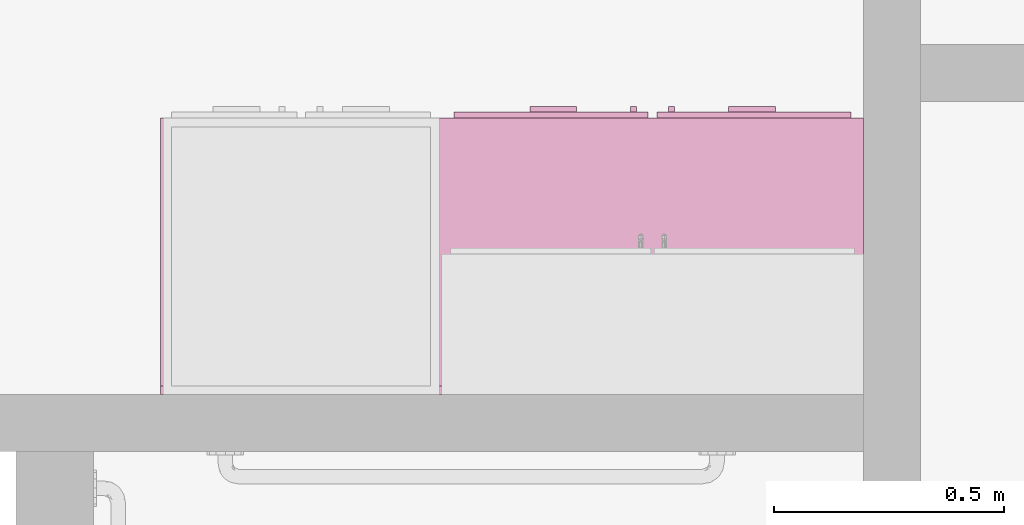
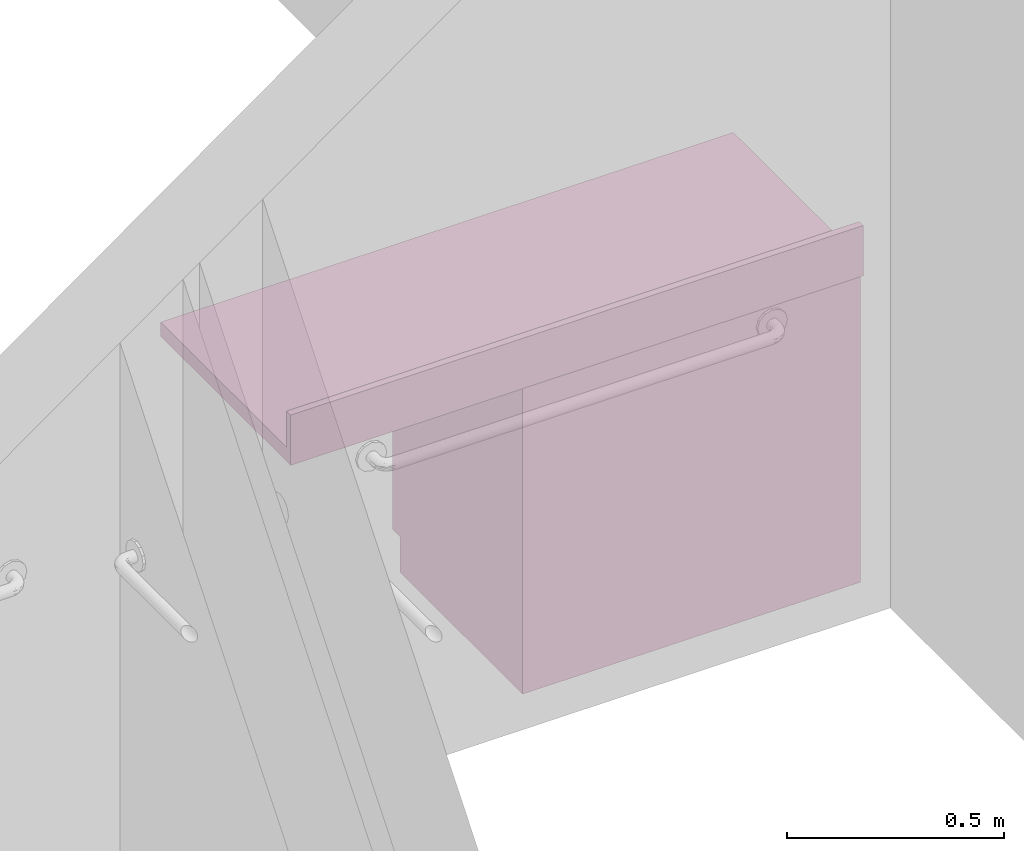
# One storey, part 72 of 82: 2 furnishings.
"""IFC2X3 building model written with IfcOpenShell, lengths in metres."""

from ifc_helpers import new_model, entity, si_unit, converted_unit, frame, origin, origin_2d_with_axis, place, context, project, spatial, rectangle, extrude, face_set, surface_model, source, transform, mapped, type_object, type_shapes, element, save


model = new_model("IFC2X3")

# Units and contexts
model_context = context("Model", 3, precision=1e-09, world=origin())
plan_context = context("Plan", 3, precision=1e-09, world=origin())
ifc_project = project(units=[si_unit("LENGTHUNIT", "METRE"), si_unit("AREAUNIT", "SQUARE_METRE"), si_unit("VOLUMEUNIT", "CUBIC_METRE"), converted_unit("PLANEANGLEUNIT", "DEGREE", entity("IfcRatioMeasure", 0.01745329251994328), si_unit("PLANEANGLEUNIT", "RADIAN"), dimensions=[0, 0, 0, 0, 0, 0, 0]), si_unit("TIMEUNIT", "SECOND")], contexts=[model_context, plan_context])

# Site, building, storey, space
site_placement = place(None, origin())
site = spatial("IfcSite", under=ifc_project, at=site_placement, Name="Default", CompositionType="ELEMENT")
building_placement = place(site_placement, origin())
building = spatial("IfcBuilding", under=site, at=building_placement, CompositionType="ELEMENT")
storey_placement = place(building_placement, origin())
storey = spatial("IfcBuildingStorey", under=building, at=storey_placement, Name="First Floor", CompositionType="ELEMENT", Elevation=-3.531500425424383e-13)
space_placement = place(storey_placement, origin())
space = spatial("IfcSpace", under=storey, at=space_placement, Name="1E11", CompositionType="ELEMENT", InteriorOrExteriorSpace="INTERNAL")

# Furnishings
furniture_type_1 = type_object("IfcFurnitureType", Name="900mm", AssemblyPlace="NOTDEFINED")
shared_shape_1 = source(origin(), model_context, "Body", "SurfaceModel", [
    surface_model("IfcFaceBasedSurfaceModel", [(0.8809499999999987, 0.04445000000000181, 0.86000000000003), (0.8809499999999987, 0.04445000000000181, 0.09999999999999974), (0.01905000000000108, 0.04445000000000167, 0.09999999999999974), (0.01905000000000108, 0.04445000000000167, 0.86000000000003), (0.8999999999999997, 0.02540000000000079, 0.8600000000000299), (0.0, 0.02540000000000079, 0.8600000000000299), (0.8999999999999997, 0.02540000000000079, 0.09999999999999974), (0.0, 0.02540000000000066, 0.0999999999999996), (0.01905000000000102, 0.6063499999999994, 0.86000000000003), (0.01905000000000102, 0.6063499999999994, 0.09999999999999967), (0.01905000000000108, 0.06040000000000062, 0.09999999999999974), (0.0, 0.6254000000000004, 0.8600000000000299), (0.0, 0.6254000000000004, 0.0), (0.0, 0.06040000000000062, 0.0), (0.0, 0.06040000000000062, 0.09999999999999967), (0.8809499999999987, 0.6063499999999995, 0.86000000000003), (0.8809499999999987, 0.6063499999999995, 0.09999999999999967), (0.8999999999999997, 0.6254000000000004, 0.8600000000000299), (0.8999999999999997, 0.6254000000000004, 0.0), (0.8809499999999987, 0.06040000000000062, 0.09999999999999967), (0.8999999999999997, 0.06040000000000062, 0.09999999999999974), (0.8999999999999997, 0.06040000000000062, 0.0), (0.2853250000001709, 0.0, 0.8155500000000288), (0.2853250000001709, 0.0, 0.8028500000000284), (0.1837250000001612, 0.0, 0.8028500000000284), (0.1837250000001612, 0.0, 0.8155500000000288), (0.716275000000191, 0.0, 0.8155500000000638), (0.716275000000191, 0.0, 0.8028500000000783), (0.6146750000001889, 0.0, 0.8028500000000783), (0.6146750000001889, 0.0, 0.8155500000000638), (0.4150750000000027, 0.0, 0.6822000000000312), (0.4150750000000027, 0.0, 0.5806000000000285), (0.4023750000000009, 0.0, 0.5806000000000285), (0.4023750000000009, 0.0, 0.6822000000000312), (0.4976249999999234, 0.0, 0.6822000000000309), (0.4976249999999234, 0.0, 0.5806000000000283), (0.4849249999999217, 0.0, 0.5806000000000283), (0.4849249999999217, 0.0, 0.6822000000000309), (0.285325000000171, 0.01270000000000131, 0.8155500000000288), (0.285325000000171, 0.01270000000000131, 0.8028500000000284), (0.1837250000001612, 0.01270000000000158, 0.8028500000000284), (0.1837250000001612, 0.01270000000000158, 0.8155500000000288), (0.7162750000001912, 0.01269999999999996, 0.8155500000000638), (0.7162750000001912, 0.01269999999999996, 0.8028500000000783), (0.6146750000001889, 0.01270000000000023, 0.8028500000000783), (0.6146750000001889, 0.01270000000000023, 0.8155500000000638), (0.4150750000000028, 0.0127000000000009, 0.6822000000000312), (0.4150750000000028, 0.0127000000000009, 0.5806000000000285), (0.4023750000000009, 0.0127000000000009, 0.5806000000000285), (0.4023750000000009, 0.0127000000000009, 0.6822000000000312), (0.4976249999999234, 0.01270000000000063, 0.6822000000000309), (0.4976249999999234, 0.01270000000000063, 0.5806000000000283), (0.4849249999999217, 0.01270000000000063, 0.5806000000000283), (0.4849249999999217, 0.01270000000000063, 0.6822000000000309), (0.4404749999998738, 0.01270000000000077, 0.8409500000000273), (0.4404749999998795, 0.01270000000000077, 0.7393500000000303), (0.01905000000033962, 0.01270000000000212, 0.7393500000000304), (0.01905000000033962, 0.01270000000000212, 0.8409500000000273), (0.8809500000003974, 0.01269999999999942, 0.8409500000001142), (0.8809500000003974, 0.01269999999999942, 0.7393500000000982), (0.4595249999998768, 0.01270000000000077, 0.7393500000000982), (0.4595249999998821, 0.01270000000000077, 0.8409500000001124), (0.4404749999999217, 0.01270000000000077, 0.7203000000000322), (0.4404749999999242, 0.01270000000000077, 0.1190499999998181), (0.01905000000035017, 0.01270000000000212, 0.1190499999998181), (0.01905000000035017, 0.01270000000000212, 0.7203000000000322), (0.8809500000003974, 0.01269999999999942, 0.7203000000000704), (0.8809500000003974, 0.01269999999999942, 0.1190499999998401), (0.4595249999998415, 0.01270000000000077, 0.1190499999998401), (0.4595249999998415, 0.01270000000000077, 0.7203000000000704), (0.4404749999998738, 0.02540000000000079, 0.8409500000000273), (0.4404749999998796, 0.02540000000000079, 0.7393500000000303), (0.01905000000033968, 0.02540000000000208, 0.7393500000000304), (0.01905000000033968, 0.02540000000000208, 0.8409500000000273), (0.8809500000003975, 0.02539999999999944, 0.8409500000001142), (0.8809500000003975, 0.02539999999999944, 0.7393500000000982), (0.4595249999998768, 0.02540000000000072, 0.7393500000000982), (0.4595249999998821, 0.02540000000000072, 0.8409500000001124), (0.4404749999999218, 0.02540000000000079, 0.7203000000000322), (0.4404749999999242, 0.02540000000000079, 0.1190499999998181), (0.01905000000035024, 0.02540000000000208, 0.1190499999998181), (0.01905000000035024, 0.02540000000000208, 0.7203000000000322), (0.8809500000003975, 0.02539999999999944, 0.7203000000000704), (0.8809500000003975, 0.02539999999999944, 0.1190499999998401), (0.4595249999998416, 0.02540000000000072, 0.1190499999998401), (0.4595249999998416, 0.02540000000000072, 0.7203000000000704), (0.8809499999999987, 0.6063499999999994, 0.1190499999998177), (0.8809499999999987, 0.04445000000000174, 0.1190499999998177), (0.01905000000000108, 0.04445000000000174, 0.1190499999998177), (0.01905000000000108, 0.6063499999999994, 0.1190499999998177), (0.8809499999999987, 0.6063499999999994, 0.09999999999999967), (0.8809499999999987, 0.04445000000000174, 0.09999999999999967), (0.01905000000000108, 0.04445000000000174, 0.09999999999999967), (0.01905000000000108, 0.6063499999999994, 0.09999999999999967)], [face_set([[[0, 1, 2, 3]], [[0, 4, 5, 3]], [[4, 6, 7, 5]], [[2, 1, 6, 7]], [[3, 8, 9, 10, 2]], [[5, 11, 8, 3]], [[7, 5, 11, 12, 13, 14]], [[2, 7, 14, 10]], [[8, 15, 16, 9]], [[11, 17, 15, 8]], [[12, 11, 17, 18]], [[1, 19, 16, 15, 0]], [[0, 15, 17, 4]], [[4, 6, 20, 21, 18, 17]], [[6, 1, 19, 20]], [[10, 9, 16, 19]], [[18, 21, 13, 12]], [[13, 14, 10, 19, 20, 21]]]), face_set([[[22, 23, 24, 25]], [[26, 27, 28, 29]], [[30, 31, 32, 33]], [[34, 35, 36, 37]], [[38, 39, 40, 41]], [[42, 43, 44, 45]], [[46, 47, 48, 49]], [[50, 51, 52, 53]], [[25, 41, 38, 22]], [[24, 40, 41, 25]], [[23, 24, 40, 39]], [[22, 23, 39, 38]], [[29, 45, 42, 26]], [[28, 44, 45, 29]], [[27, 28, 44, 43]], [[26, 27, 43, 42]], [[33, 49, 46, 30]], [[32, 48, 49, 33]], [[31, 32, 48, 47]], [[30, 31, 47, 46]], [[37, 53, 50, 34]], [[36, 52, 53, 37]], [[35, 36, 52, 51]], [[34, 35, 51, 50]]]), face_set([[[54, 55, 56, 57]], [[58, 59, 60, 61]], [[62, 63, 64, 65]], [[66, 67, 68, 69]], [[70, 71, 72, 73]], [[74, 75, 76, 77]], [[78, 79, 80, 81]], [[82, 83, 84, 85]], [[57, 73, 70, 54]], [[56, 57, 73, 72]], [[55, 56, 72, 71]], [[54, 55, 71, 70]], [[61, 77, 74, 58]], [[60, 76, 77, 61]], [[59, 60, 76, 75]], [[58, 59, 75, 74]], [[65, 81, 78, 62]], [[64, 65, 81, 80]], [[63, 64, 80, 79]], [[62, 63, 79, 78]], [[69, 85, 82, 66]], [[68, 84, 85, 69]], [[67, 68, 84, 83]], [[66, 67, 83, 82]]]), face_set([[[86, 87, 88, 89]], [[90, 91, 92, 93]], [[89, 86, 90, 93]], [[88, 89, 93, 92]], [[87, 91, 92, 88]], [[86, 87, 91, 90]]])]),
])
type_shapes(furniture_type_1, [shared_shape_1])
furnishing_1_placement = place(space_placement, frame((-34.88150000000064, 15.5153999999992, 0.0), z_axis=(0.0, 0.0, 1.0), x_axis=(-1.0, 0.0, 0.0)))
element("IfcFurnishingElement", 1, at=furnishing_1_placement, inside=space, type_object=furniture_type_1, Name="M_Base Cabinet-Double Door & 2 Drawer:900mm:900mm", ObjectType="900mm", context=model_context, shape_type="MappedRepresentation", body=[
    mapped(shared_shape_1, transform((0.0, 0.0, 0.0), scale=1.0)),
])
furniture_type_2 = type_object("IfcFurnitureType", Name="600mm Depth", AssemblyPlace="NOTDEFINED")
shared_shape_2 = source(origin(), model_context, "Body", "SweptSolid", [
    extrude(rectangle(XDim=0.01905000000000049, YDim=1.524999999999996, at=origin_2d_with_axis()), frame((-0.4379622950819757, -0.009525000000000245, 0.9000000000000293), z_axis=(0.0, 0.0, 1.0), x_axis=(0.0, -1.0, 0.0)), (0.0, 0.0, 1.0), 0.1016000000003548),
    extrude(rectangle(XDim=1.524999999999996, YDim=0.5999999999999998, at=origin_2d_with_axis()), frame((-0.4379622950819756, -0.2999999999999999, 0.8600000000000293), z_axis=(0.0, 0.0, 1.0), x_axis=(-1.0, 0.0, 0.0)), (0.0, 0.0, 1.0), 0.04000000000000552),
])
type_shapes(furniture_type_2, [shared_shape_2])
furnishing_2_placement = place(space_placement, frame((-36.07446229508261, 14.88999999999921, 0.0), z_axis=(0.0, 0.0, 1.0), x_axis=(-1.0, 0.0, 0.0)))
element("IfcFurnishingElement", 2, at=furnishing_2_placement, inside=space, type_object=furniture_type_2, Name="M_Counter Top:600mm Depth:600mm Depth", ObjectType="600mm Depth", context=model_context, shape_type="MappedRepresentation", body=[
    mapped(shared_shape_2, transform((0.0, 0.0, 0.0), scale=1.0)),
])

save(model, "model.ifc")
